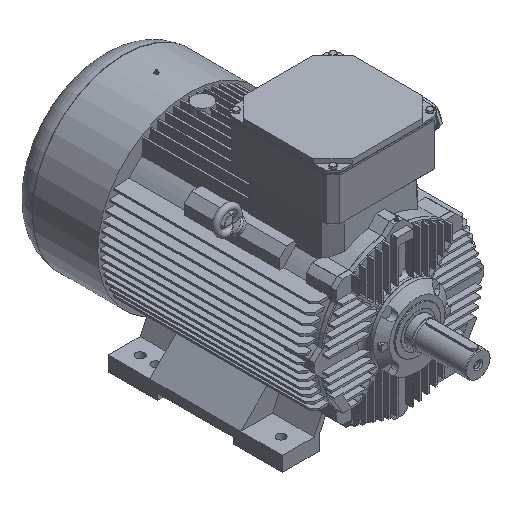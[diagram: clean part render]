
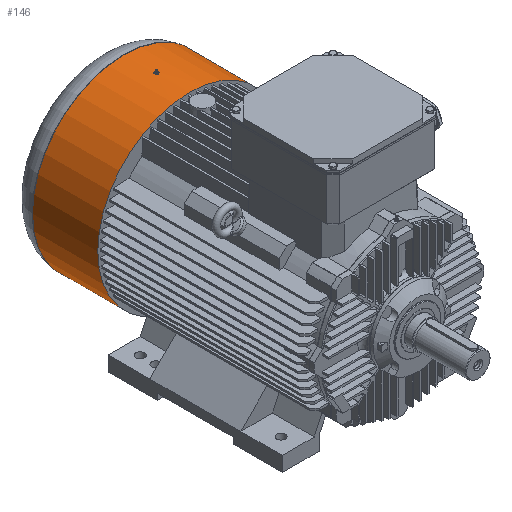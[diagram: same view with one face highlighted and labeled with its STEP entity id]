
A CAD part, isometric view. The second image highlights one B-rep face of the part: STEP entity #146.
In plain terms, the highlighted cylindrical face has radius 298 mm (diameter 596 mm), a full revolution.
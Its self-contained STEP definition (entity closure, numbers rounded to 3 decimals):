
#146 = ADVANCED_FACE( '', ( #1457, #1458, #1459 ), #1460, .T. );
#1457 = FACE_OUTER_BOUND( '', #4175, .T. );
#1458 = FACE_OUTER_BOUND( '', #4176, .T. );
#1459 = FACE_BOUND( '', #4177, .T. );
#1460 = CYLINDRICAL_SURFACE( '', #4178, 298. );
#4175 = EDGE_LOOP( '', ( #11236 ) );
#4176 = EDGE_LOOP( '', ( #11237 ) );
#4177 = EDGE_LOOP( '', ( #11238, #11239, #11240, #11241, #11242, #11243, #11244, #11245 ) );
#4178 = AXIS2_PLACEMENT_3D( '', #11246, #11247, #11248 );
#11236 = ORIENTED_EDGE( '', *, *, #21280, .T. );
#11237 = ORIENTED_EDGE( '', *, *, #21281, .F. );
#11238 = ORIENTED_EDGE( '', *, *, #21282, .T. );
#11239 = ORIENTED_EDGE( '', *, *, #21283, .T. );
#11240 = ORIENTED_EDGE( '', *, *, #21284, .T. );
#11241 = ORIENTED_EDGE( '', *, *, #21285, .T. );
#11242 = ORIENTED_EDGE( '', *, *, #21286, .T. );
#11243 = ORIENTED_EDGE( '', *, *, #21287, .T. );
#11244 = ORIENTED_EDGE( '', *, *, #21288, .T. );
#11245 = ORIENTED_EDGE( '', *, *, #21289, .T. );
#11246 = CARTESIAN_POINT( '', ( 0., 663., 0. ) );
#11247 = DIRECTION( '', ( 0., 1., 0. ) );
#11248 = DIRECTION( '', ( 0., 0., 1. ) );
#21280 = EDGE_CURVE( '', #25363, #25363, #25364, .T. );
#21281 = EDGE_CURVE( '', #25365, #25365, #25366, .T. );
#21282 = EDGE_CURVE( '', #25367, #25368, #25369, .F. );
#21283 = EDGE_CURVE( '', #25368, #25370, #25371, .F. );
#21284 = EDGE_CURVE( '', #25370, #25372, #25373, .F. );
#21285 = EDGE_CURVE( '', #25372, #25374, #25375, .F. );
#21286 = EDGE_CURVE( '', #25374, #25376, #25377, .F. );
#21287 = EDGE_CURVE( '', #25376, #25378, #25379, .F. );
#21288 = EDGE_CURVE( '', #25378, #25380, #25381, .T. );
#21289 = EDGE_CURVE( '', #25380, #25367, #25382, .F. );
#25363 = VERTEX_POINT( '', #30994 );
#25364 = CIRCLE( '', #30995, 298. );
#25365 = VERTEX_POINT( '', #30996 );
#25366 = CIRCLE( '', #30997, 298. );
#25367 = VERTEX_POINT( '', #30998 );
#25368 = VERTEX_POINT( '', #30999 );
#25369 = ELLIPSE( '', #31000, 334.038, 298. );
#25370 = VERTEX_POINT( '', #31001 );
#25371 = ELLIPSE( '', #31002, 355.891, 298. );
#25372 = VERTEX_POINT( '', #31003 );
#25373 = LINE( '', #31004, #31005 );
#25374 = VERTEX_POINT( '', #31006 );
#25375 = ELLIPSE( '', #31007, 5439.988, 298. );
#25376 = VERTEX_POINT( '', #31008 );
#25377 = ELLIPSE( '', #31009, 334.038, 298. );
#25378 = VERTEX_POINT( '', #31010 );
#25379 = ELLIPSE( '', #31011, 355.891, 298. );
#25380 = VERTEX_POINT( '', #31012 );
#25381 = LINE( '', #31013, #31014 );
#25382 = ELLIPSE( '', #31015, 5439.988, 298. );
#30994 = CARTESIAN_POINT( '', ( 0., 876., 298. ) );
#30995 = AXIS2_PLACEMENT_3D( '', #44499, #44500, #44501 );
#30996 = CARTESIAN_POINT( '', ( 0., 663., 298. ) );
#30997 = AXIS2_PLACEMENT_3D( '', #44502, #44503, #44504 );
#30998 = CARTESIAN_POINT( '', ( 5.318, 767.528, 297.953 ) );
#30999 = CARTESIAN_POINT( '', ( -0.348, 764.659, 298. ) );
#31000 = AXIS2_PLACEMENT_3D( '', #44505, #44506, #44507 );
#31001 = CARTESIAN_POINT( '', ( -5.459, 767.995, 297.95 ) );
#31002 = AXIS2_PLACEMENT_3D( '', #44508, #44509, #44510 );
#31003 = CARTESIAN_POINT( '', ( -5.459, 771.903, 297.95 ) );
#31004 = CARTESIAN_POINT( '', ( -5.459, 663., 297.95 ) );
#31005 = VECTOR( '', #44511, 1000. );
#31006 = CARTESIAN_POINT( '', ( -5.318, 774.472, 297.953 ) );
#31007 = AXIS2_PLACEMENT_3D( '', #44512, #44513, #44514 );
#31008 = CARTESIAN_POINT( '', ( 0.348, 777.341, 298. ) );
#31009 = AXIS2_PLACEMENT_3D( '', #44515, #44516, #44517 );
#31010 = CARTESIAN_POINT( '', ( 5.459, 774.005, 297.95 ) );
#31011 = AXIS2_PLACEMENT_3D( '', #44518, #44519, #44520 );
#31012 = CARTESIAN_POINT( '', ( 5.459, 770.097, 297.95 ) );
#31013 = CARTESIAN_POINT( '', ( 5.459, 663., 297.95 ) );
#31014 = VECTOR( '', #44521, 1000. );
#31015 = AXIS2_PLACEMENT_3D( '', #44522, #44523, #44524 );
#44499 = CARTESIAN_POINT( '', ( 0., 876., 0. ) );
#44500 = DIRECTION( '', ( 0., -1., 0. ) );
#44501 = DIRECTION( '', ( 0., 0., 1. ) );
#44502 = CARTESIAN_POINT( '', ( 0., 663., 0. ) );
#44503 = DIRECTION( '', ( 0., -1., 0. ) );
#44504 = DIRECTION( '', ( 0., 0., 1. ) );
#44505 = CARTESIAN_POINT( '', ( 0., 764.835, 0. ) );
#44506 = DIRECTION( '', ( -0.452, 0.892, 0. ) );
#44507 = DIRECTION( '', ( -0.892, -0.452, 0. ) );
#44508 = CARTESIAN_POINT( '', ( 0., 764.432, 0. ) );
#44509 = DIRECTION( '', ( 0.547, 0.837, 0. ) );
#44510 = DIRECTION( '', ( 0.837, -0.547, 0. ) );
#44511 = DIRECTION( '', ( 0., -1., 0. ) );
#44512 = CARTESIAN_POINT( '', ( 0., 871.402, 0. ) );
#44513 = DIRECTION( '', ( 0.998, -0.055, 0. ) );
#44514 = DIRECTION( '', ( -0.055, -0.998, 0. ) );
#44515 = CARTESIAN_POINT( '', ( 0., 777.165, 0. ) );
#44516 = DIRECTION( '', ( 0.452, -0.892, 0. ) );
#44517 = DIRECTION( '', ( -0.892, -0.452, 0. ) );
#44518 = CARTESIAN_POINT( '', ( 0., 777.568, 0. ) );
#44519 = DIRECTION( '', ( -0.547, -0.837, 0. ) );
#44520 = DIRECTION( '', ( 0.837, -0.547, 0. ) );
#44521 = DIRECTION( '', ( 0., -1., 0. ) );
#44522 = CARTESIAN_POINT( '', ( 0., 670.598, 0. ) );
#44523 = DIRECTION( '', ( -0.998, 0.055, 0. ) );
#44524 = DIRECTION( '', ( -0.055, -0.998, 0. ) );
